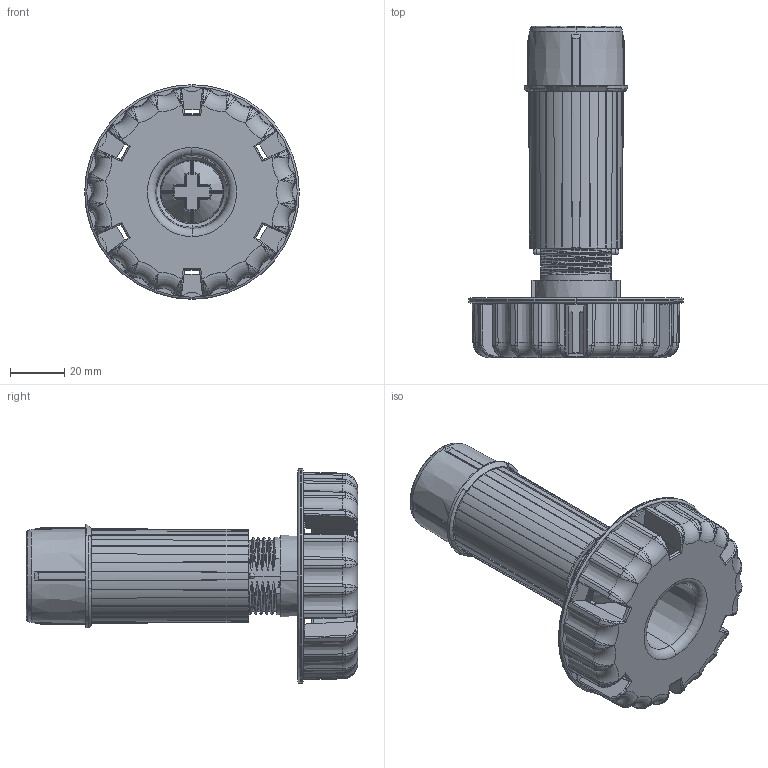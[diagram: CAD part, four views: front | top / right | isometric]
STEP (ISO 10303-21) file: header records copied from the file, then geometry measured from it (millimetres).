
FILE_DESCRIPTION((''),'2;1');
FILE_NAME('69_4125_ASM','2014-10-30T',('hha'),(''),'PRO/ENGINEER BY PARAMETRIC TECHNOLOGY CORPORATION, 2012360','PRO/ENGINEER BY PARAMETRIC TECHNOLOGY CORPORATION, 2012360','');
FILE_SCHEMA(('CONFIG_CONTROL_DESIGN'));
Length unit declared in the file: millimetre
Products named in the file (3): 69_0015; 69_1253; 69_4125_ASM
Assembly tree (2 placements, depth 2):
  69_4125_ASM
    69_0015
    69_1253
Bounding box: 79 x 121.89 x 79 mm (x, y, z)
Volume: 51510 mm3; surface area: 59459.8 mm2
Topology: 2 solids, 2 shells, 1106 faces, 3010 edges, 1900 vertices
Faces by surface type: bspline 328, plane 210, cone 188, cylinder 187, torus 165, sphere 28
Entity records: 88523 total; most frequent: CARTESIAN_POINT 64409, ORIENTED_EDGE 6012, DIRECTION 3647, EDGE_CURVE 3006, VERTEX_POINT 1900, B_SPLINE_CURVE_WITH_KNOTS 1582, AXIS2_PLACEMENT_3D 1440, EDGE_LOOP 1116
